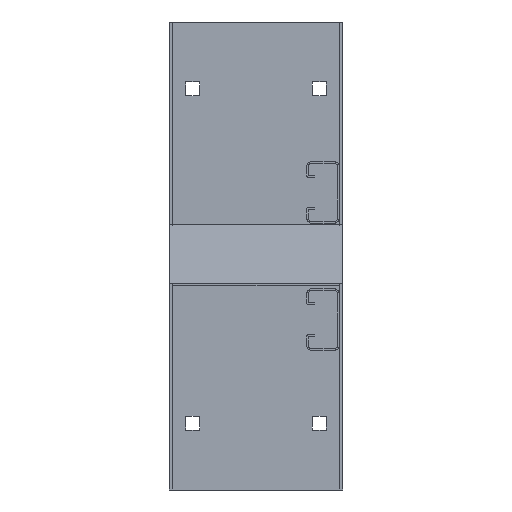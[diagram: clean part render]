
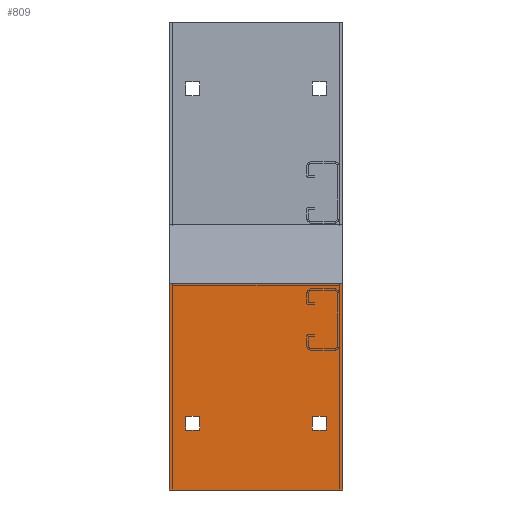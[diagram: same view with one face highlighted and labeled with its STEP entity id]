
A CAD part, left-side view. The second image highlights one B-rep face of the part: STEP entity #809.
In plain terms, the highlighted planar face has unit normal (-1, 0, 0).
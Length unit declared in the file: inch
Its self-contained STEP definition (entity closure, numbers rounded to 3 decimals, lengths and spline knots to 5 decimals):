
#65=DIRECTION('',(0.,0.,-1.));
#66=VECTOR('',#65,6.05196);
#67=CARTESIAN_POINT('',(-3.09,5.08,-7.68009));
#68=LINE('',#67,#66);
#113=DIRECTION('',(0.,1.,0.));
#114=VECTOR('',#113,5.08);
#115=CARTESIAN_POINT('',(-3.09,0.,-13.73205));
#116=LINE('',#115,#114);
#137=DIRECTION('',(0.,1.,0.));
#138=VECTOR('',#137,5.08);
#139=CARTESIAN_POINT('',(-3.09,0.,-7.68009));
#140=LINE('',#139,#138);
#141=DIRECTION('',(0.,0.,-1.));
#142=VECTOR('',#141,6.05196);
#143=CARTESIAN_POINT('',(-3.09,0.,-7.68009));
#144=LINE('',#143,#142);
#145=DIRECTION('',(0.,-1.,0.));
#146=VECTOR('',#145,0.41);
#147=CARTESIAN_POINT('',(-3.09,0.8825,-11.97705));
#148=LINE('',#147,#146);
#149=DIRECTION('',(0.,0.,1.));
#150=VECTOR('',#149,0.41);
#151=CARTESIAN_POINT('',(-3.09,0.4725,-11.97705));
#152=LINE('',#151,#150);
#153=DIRECTION('',(0.,1.,0.));
#154=VECTOR('',#153,0.41);
#155=CARTESIAN_POINT('',(-3.09,0.4725,-11.56705));
#156=LINE('',#155,#154);
#157=DIRECTION('',(0.,0.,-1.));
#158=VECTOR('',#157,0.41);
#159=CARTESIAN_POINT('',(-3.09,0.8825,-11.56705));
#160=LINE('',#159,#158);
#161=DIRECTION('',(0.,0.,1.));
#162=VECTOR('',#161,0.41);
#163=CARTESIAN_POINT('',(-3.09,4.1975,-11.97705));
#164=LINE('',#163,#162);
#165=DIRECTION('',(0.,1.,0.));
#166=VECTOR('',#165,0.41);
#167=CARTESIAN_POINT('',(-3.09,4.1975,-11.56705));
#168=LINE('',#167,#166);
#169=DIRECTION('',(0.,0.,-1.));
#170=VECTOR('',#169,0.41);
#171=CARTESIAN_POINT('',(-3.09,4.6075,-11.56705));
#172=LINE('',#171,#170);
#173=DIRECTION('',(0.,-1.,0.));
#174=VECTOR('',#173,0.41);
#175=CARTESIAN_POINT('',(-3.09,4.6075,-11.97705));
#176=LINE('',#175,#174);
#469=CARTESIAN_POINT('',(-3.09,0.,-7.68009));
#470=CARTESIAN_POINT('',(-3.09,5.08,-7.68009));
#471=VERTEX_POINT('',#469);
#472=VERTEX_POINT('',#470);
#485=CARTESIAN_POINT('',(-3.09,0.,-13.73205));
#486=VERTEX_POINT('',#485);
#487=CARTESIAN_POINT('',(-3.09,5.08,-13.73205));
#488=VERTEX_POINT('',#487);
#542=CARTESIAN_POINT('',(-3.09,0.8825,-11.97705));
#544=VERTEX_POINT('',#542);
#546=CARTESIAN_POINT('',(-3.09,0.4725,-11.97705));
#548=VERTEX_POINT('',#546);
#550=CARTESIAN_POINT('',(-3.09,0.4725,-11.56705));
#552=VERTEX_POINT('',#550);
#554=CARTESIAN_POINT('',(-3.09,0.8825,-11.56705));
#556=VERTEX_POINT('',#554);
#558=CARTESIAN_POINT('',(-3.09,4.1975,-11.97705));
#560=VERTEX_POINT('',#558);
#562=CARTESIAN_POINT('',(-3.09,4.1975,-11.56705));
#564=VERTEX_POINT('',#562);
#566=CARTESIAN_POINT('',(-3.09,4.6075,-11.56705));
#568=VERTEX_POINT('',#566);
#570=CARTESIAN_POINT('',(-3.09,4.6075,-11.97705));
#572=VERTEX_POINT('',#570);
#776=CARTESIAN_POINT('',(-3.09,0.,-7.73205));
#777=DIRECTION('',(-1.,0.,0.));
#778=DIRECTION('',(0.,1.,0.));
#779=AXIS2_PLACEMENT_3D('',#776,#777,#778);
#780=PLANE('',#779);
#782=ORIENTED_EDGE('',*,*,#781,.F.);
#784=ORIENTED_EDGE('',*,*,#783,.T.);
#785=ORIENTED_EDGE('',*,*,#762,.T.);
#786=ORIENTED_EDGE('',*,*,#657,.F.);
#787=EDGE_LOOP('',(#782,#784,#785,#786));
#788=FACE_OUTER_BOUND('',#787,.F.);
#790=ORIENTED_EDGE('',*,*,#789,.T.);
#792=ORIENTED_EDGE('',*,*,#791,.T.);
#794=ORIENTED_EDGE('',*,*,#793,.T.);
#796=ORIENTED_EDGE('',*,*,#795,.T.);
#797=EDGE_LOOP('',(#790,#792,#794,#796));
#798=FACE_BOUND('',#797,.F.);
#800=ORIENTED_EDGE('',*,*,#799,.T.);
#802=ORIENTED_EDGE('',*,*,#801,.T.);
#804=ORIENTED_EDGE('',*,*,#803,.T.);
#806=ORIENTED_EDGE('',*,*,#805,.T.);
#807=EDGE_LOOP('',(#800,#802,#804,#806));
#808=FACE_BOUND('',#807,.F.);
#809=ADVANCED_FACE('',(#788,#798,#808),#780,.T.);
#657=EDGE_CURVE('',#472,#488,#68,.T.);
#762=EDGE_CURVE('',#486,#488,#116,.T.);
#781=EDGE_CURVE('',#471,#472,#140,.T.);
#783=EDGE_CURVE('',#471,#486,#144,.T.);
#789=EDGE_CURVE('',#544,#548,#148,.T.);
#791=EDGE_CURVE('',#548,#552,#152,.T.);
#793=EDGE_CURVE('',#552,#556,#156,.T.);
#795=EDGE_CURVE('',#556,#544,#160,.T.);
#799=EDGE_CURVE('',#560,#564,#164,.T.);
#801=EDGE_CURVE('',#564,#568,#168,.T.);
#803=EDGE_CURVE('',#568,#572,#172,.T.);
#805=EDGE_CURVE('',#572,#560,#176,.T.);
